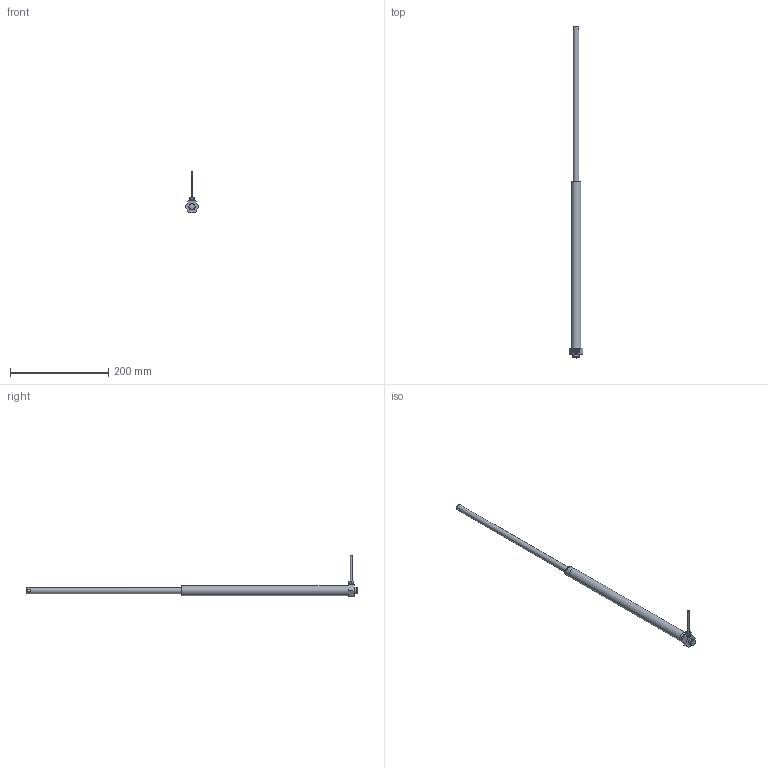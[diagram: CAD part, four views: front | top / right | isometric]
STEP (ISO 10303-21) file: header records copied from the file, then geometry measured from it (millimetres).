
FILE_DESCRIPTION(/* description */ ('Unknown'),/* implementation_level */ '2;1');
FILE_NAME(/* name */ '109.50023 Zylinder CB 1830 ausgefahren',/* time_stamp */ '2018-04-19T16:44:38+02:00',/* author */ ('Unknown'),/* organization */ ('Unknown'),/* preprocessor_version */ 'ST-DEVELOPER v16.7',/* originating_system */ 'DEX',/* authorisation */ $);
FILE_SCHEMA (('AUTOMOTIVE_DESIGN {1 0 10303 214 3 1 1}'));
Length unit declared in the file: millimetre
Products named in the file (9): 109.50023; 121.50003; 142.00021; 125.00021; 115.00008_oa_0; 125.00063; 120.00003; 122.00012; 113.00002_70mm
Assembly tree (8 placements, depth 2):
  109.50023
    121.50003
    142.00021
    125.00021
    115.00008_oa_0
    125.00063
    120.00003
    122.00012
    113.00002_70mm
Bounding box: 27.71 x 676 x 83.5 mm (x, y, z)
Volume: 69279.5 mm3; surface area: 60556.6 mm2
Topology: 7 solids, 7 shells, 93 faces, 192 edges, 122 vertices
Faces by surface type: plane 37, cylinder 28, cone 23, torus 4, sphere 1
Full cylindrical faces by diameter (mm): 2.2 x1, 3 x1, 3.5 x1, 4 x1, 4.1 x1, 4.2 x1, 6 x1, 6.917 x2, 7.763 x2, 8 x3, 8.1 x3, 12 x2, 12.5 x1, 13 x2, 14.4 x1, 17.9 x2, 18 x2, 20 x1
Entity records: 2782 total; most frequent: CARTESIAN_POINT 435, DIRECTION 392, ORIENTED_EDGE 258, AXIS2_PLACEMENT_3D 177, FACE_BOUND 166, EDGE_LOOP 164, EDGE_CURVE 129, VERTEX_POINT 111
